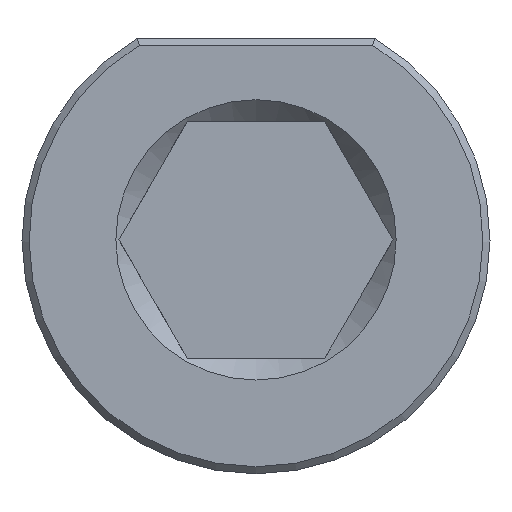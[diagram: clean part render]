
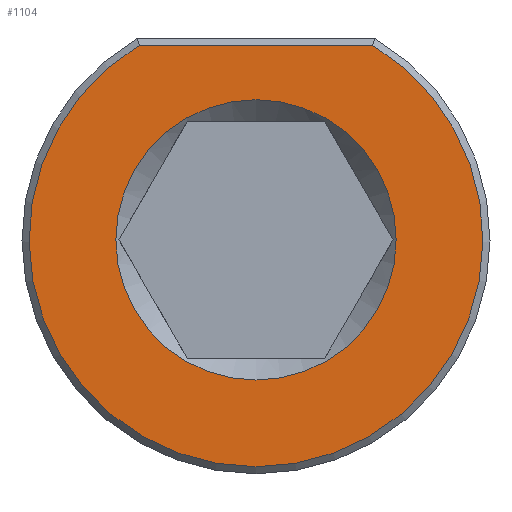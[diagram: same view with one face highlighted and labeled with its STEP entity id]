
A CAD part, front view. The second image highlights one B-rep face of the part: STEP entity #1104.
In plain terms, the highlighted planar face has unit normal (0, -1, 0).
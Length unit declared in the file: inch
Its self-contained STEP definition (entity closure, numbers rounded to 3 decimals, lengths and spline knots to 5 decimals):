
#42=FACE_BOUND('',#302,.T.);
#77=PLANE('',#1229);
#114=LINE('',#2065,#164);
#164=VECTOR('',#1441,0.3937);
#234=FACE_OUTER_BOUND('',#301,.T.);
#301=EDGE_LOOP('',(#838,#839));
#302=EDGE_LOOP('',(#840));
#376=CIRCLE('',#1225,0.4775);
#378=CIRCLE('',#1230,0.295);
#500=VERTEX_POINT('',#2053);
#501=VERTEX_POINT('',#2058);
#504=VERTEX_POINT('',#2074);
#631=EDGE_CURVE('',#500,#501,#376,.T.);
#633=EDGE_CURVE('',#501,#500,#114,.T.);
#638=EDGE_CURVE('',#504,#504,#378,.T.);
#838=ORIENTED_EDGE('',*,*,#631,.F.);
#839=ORIENTED_EDGE('',*,*,#633,.F.);
#840=ORIENTED_EDGE('',*,*,#638,.F.);
#1104=ADVANCED_FACE('',(#234,#42),#77,.F.);
#1225=AXIS2_PLACEMENT_3D('',#2059,#1437,#1438);
#1229=AXIS2_PLACEMENT_3D('',#2073,#1449,#1450);
#1230=AXIS2_PLACEMENT_3D('',#2075,#1451,#1452);
#1437=DIRECTION('center_axis',(0.,1.,0.));
#1438=DIRECTION('ref_axis',(-0.507,0.,-0.862));
#1441=DIRECTION('',(1.,0.,0.));
#1449=DIRECTION('center_axis',(0.,1.,0.));
#1450=DIRECTION('ref_axis',(1.,0.,0.));
#1451=DIRECTION('center_axis',(0.,-1.,0.));
#1452=DIRECTION('ref_axis',(1.,0.,0.));
#2053=CARTESIAN_POINT('',(0.24559,0.,0.4095));
#2058=CARTESIAN_POINT('',(-0.24559,0.,0.4095));
#2059=CARTESIAN_POINT('Origin',(0.,0.,0.));
#2065=CARTESIAN_POINT('',(-0.12486,0.,0.4095));
#2073=CARTESIAN_POINT('Origin',(0.,0.,-0.034));
#2074=CARTESIAN_POINT('',(-0.295,0.,0.));
#2075=CARTESIAN_POINT('Origin',(0.,0.,0.));
